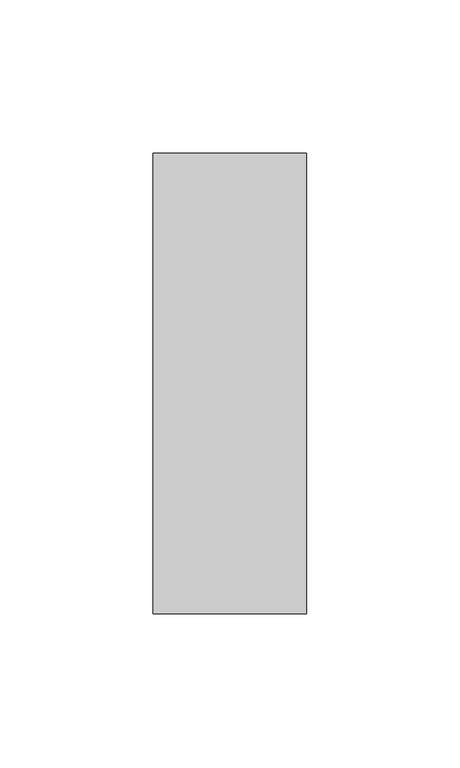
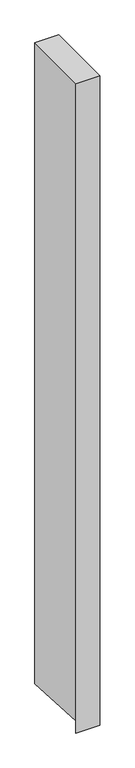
"""IFC4 building model written with IfcOpenShell, lengths in millimetres: member geometry, Прямоугольный импост : 50 x 150 мм."""

from ifc_helpers import new_model, si_unit, frame, origin, place, context, project, spatial, polyline, outline, extrude, source, transform, mapped, element, save


def member_33b01673(model_context):
    return source(origin(), model_context, "Body", "SweptSolid", [
        extrude(outline(polyline([(-75.0, 0.0), (75.0, 0.0), (75.0, -1428.8117461), (-73.6218125, -1421.1932521), (-75.0, -1448.0789758), (-75.0, 0.0)])), frame((-50.0, 0.0, 0.0), z_axis=(1.0, 0.0, 0.0), x_axis=(0.0, 1.0, 0.0)), (0.0, 0.0, 1.0), 50.0),
    ])


if __name__ == "__main__":
    model = new_model("IFC4")
    model_context = context("Model", 3, world=origin())
    ifc_project = project(units=[si_unit("LENGTHUNIT", "METRE", prefix="MILLI")], contexts=[model_context])
    site = spatial("IfcSite", under=ifc_project)
    building = spatial("IfcBuilding", under=site)
    placement = place(None, origin())
    member_shape = member_33b01673(model_context)
    element("IfcMember", 1, ObjectType="Прямоугольный импост : 50 x 150 мм", at=placement, inside=building, context=model_context, shape_type="MappedRepresentation", body=[
        mapped(member_shape, transform((0.0, 0.0, 0.0), x_axis=(1.0, 0.0, 0.0), y_axis=(0.0, 1.0, 0.0), z_axis=(0.0, 0.0, 1.0))),
    ])
    save(model, "model.ifc")
